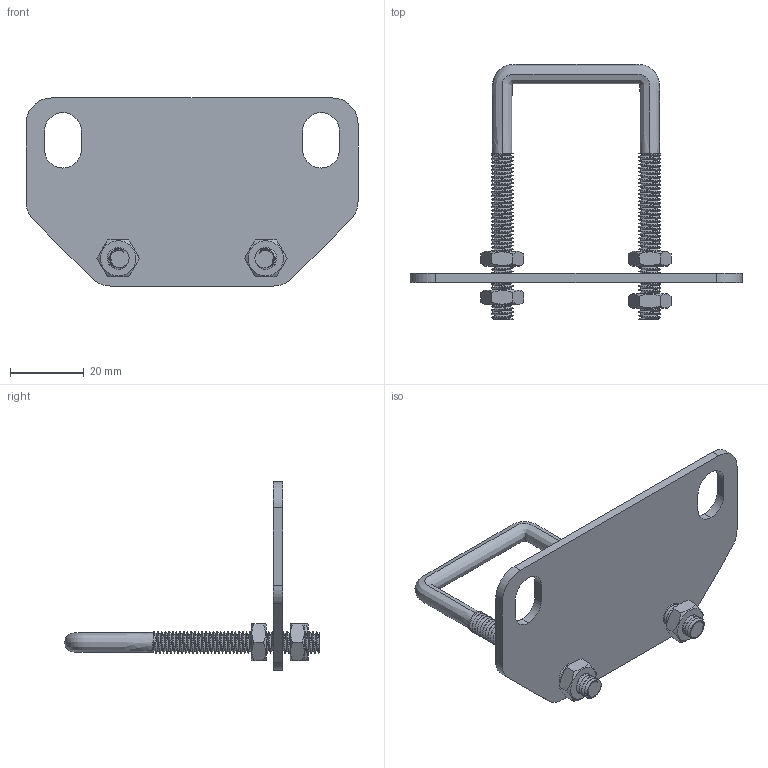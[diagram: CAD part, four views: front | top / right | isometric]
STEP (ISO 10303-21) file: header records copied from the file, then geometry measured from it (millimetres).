
FILE_DESCRIPTION (( 'STEP AP203' ), '1' );
FILE_NAME ('SK1-5004-55¸±.STEP', '2018-08-07T03:51:25', ( 'admin' ), ( 'Microsoft' ), 'SwSTEP 2.0', 'SolidWorks 2015', '' );
FILE_SCHEMA (( 'CONFIG_CONTROL_DESIGN' ));
Length unit declared in the file: millimetre
Products named in the file (4): SK1-5004-55FU1; SK1-5004-55FU2; M6蹟譫; SK1-5004-55萵
Assembly tree (6 placements, depth 2):
  SK1-5004-55萵
    SK1-5004-55FU1
    SK1-5004-55FU2
    M6蹟譫  x4
Bounding box: 90 x 69.15 x 51 mm (x, y, z)
Volume: 13497.8 mm3; surface area: 14059.2 mm2
Topology: 6 solids, 6 shells, 278 faces, 798 edges, 532 vertices
Faces by surface type: cylinder 206, plane 50, cone 16, bspline 6
Entity records: 18718 total; most frequent: CARTESIAN_POINT 13081, ORIENTED_EDGE 1380, DIRECTION 810, EDGE_CURVE 690, VERTEX_POINT 460, AXIS2_PLACEMENT_3D 285, EDGE_LOOP 246, VECTOR 240
